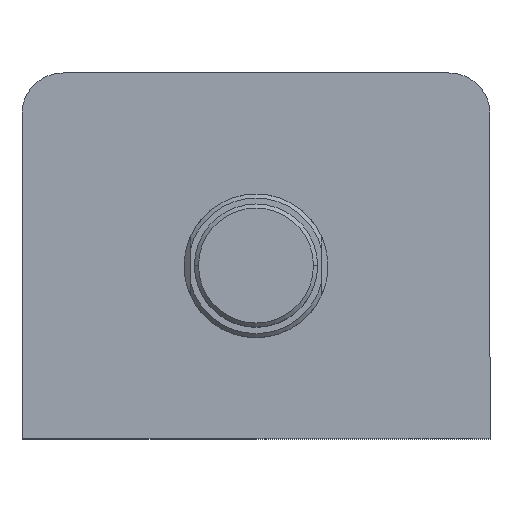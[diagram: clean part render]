
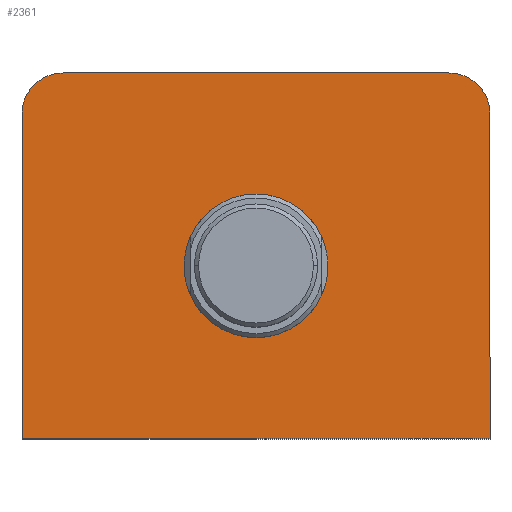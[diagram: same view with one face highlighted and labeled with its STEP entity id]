
A CAD part, top view. The second image highlights one B-rep face of the part: STEP entity #2361.
In plain terms, the highlighted planar face has unit normal (0, 0, 1).
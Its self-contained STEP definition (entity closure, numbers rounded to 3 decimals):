
#74 = CIRCLE ( 'NONE', #2833, 17.5 ) ;
#77 = CIRCLE ( 'NONE', #2831, 17.5 ) ;
#91 = LINE ( 'NONE', #2270, #94 ) ;
#94 = VECTOR ( 'NONE', #2272, 1000. ) ;
#128 = LINE ( 'NONE', #249, #131 ) ;
#131 = VECTOR ( 'NONE', #250, 1000. ) ;
#144 = CIRCLE ( 'NONE', #2812, 10. ) ;
#249 = CARTESIAN_POINT ( 'NONE',  ( -57., 44.5, 92. ) ) ;
#250 = DIRECTION ( 'NONE',  ( -1., 0., 0. ) ) ;
#281 = CARTESIAN_POINT ( 'NONE',  ( 47., 34.5, 92. ) ) ;
#282 = DIRECTION ( 'NONE',  ( 0., 0., 1. ) ) ;
#283 = DIRECTION ( 'NONE',  ( 1., 0., 0. ) ) ;
#309 = CARTESIAN_POINT ( 'NONE',  ( -47., 34.5, 92. ) ) ;
#310 = DIRECTION ( 'NONE',  ( 0., 0., 1. ) ) ;
#311 = DIRECTION ( 'NONE',  ( 1., 0., 0. ) ) ;
#317 = CARTESIAN_POINT ( 'NONE',  ( -57., 44.5, 92. ) ) ;
#433 = CARTESIAN_POINT ( 'NONE',  ( -57., 34.5, 92. ) ) ;
#437 = CARTESIAN_POINT ( 'NONE',  ( -57., -44.5, 92. ) ) ;
#548 = CARTESIAN_POINT ( 'NONE',  ( 17.5, -2.5, 92. ) ) ;
#552 = CARTESIAN_POINT ( 'NONE',  ( -17.5, -2.5, 92. ) ) ;
#560 = CARTESIAN_POINT ( 'NONE',  ( 57., 34.5, 92. ) ) ;
#731 = CARTESIAN_POINT ( 'NONE',  ( 57., -44.5, 92. ) ) ;
#809 = FACE_BOUND ( 'NONE', #2573, .T. ) ;
#823 = FACE_OUTER_BOUND ( 'NONE', #2578, .T. ) ;
#1325 = VERTEX_POINT ( 'NONE', #2279 ) ;
#1328 = VERTEX_POINT ( 'NONE', #3230 ) ;
#1337 = VERTEX_POINT ( 'NONE', #433 ) ;
#1341 = VERTEX_POINT ( 'NONE', #437 ) ;
#1411 = VERTEX_POINT ( 'NONE', #731 ) ;
#1415 = ORIENTED_EDGE ( 'NONE', *, *, #3066, .F. ) ;
#1416 = ORIENTED_EDGE ( 'NONE', *, *, #3064, .F. ) ;
#1417 = ORIENTED_EDGE ( 'NONE', *, *, #3094, .T. ) ;
#1418 = ORIENTED_EDGE ( 'NONE', *, *, #3117, .T. ) ;
#1419 = ORIENTED_EDGE ( 'NONE', *, *, #3124, .T. ) ;
#1420 = ORIENTED_EDGE ( 'NONE', *, *, #3133, .T. ) ;
#1421 = ORIENTED_EDGE ( 'NONE', *, *, #3074, .T. ) ;
#1422 = ORIENTED_EDGE ( 'NONE', *, *, #3107, .T. ) ;
#1851 = PLANE ( 'NONE',  #2939 ) ;
#1853 = CARTESIAN_POINT ( 'NONE',  ( 0., 0., 92. ) ) ;
#1858 = DIRECTION ( 'NONE',  ( 0., 0., 1. ) ) ;
#1859 = DIRECTION ( 'NONE',  ( 1., 0., 0. ) ) ;
#1912 = VERTEX_POINT ( 'NONE', #548 ) ;
#1917 = VERTEX_POINT ( 'NONE', #552 ) ;
#1926 = VERTEX_POINT ( 'NONE', #560 ) ;
#2248 = CARTESIAN_POINT ( 'NONE',  ( 0., -2.5, 92. ) ) ;
#2249 = DIRECTION ( 'NONE',  ( 0., 0., 1. ) ) ;
#2250 = DIRECTION ( 'NONE',  ( 1., 0., 0. ) ) ;
#2252 = CARTESIAN_POINT ( 'NONE',  ( 0., -2.5, 92. ) ) ;
#2253 = DIRECTION ( 'NONE',  ( 0., 0., 1. ) ) ;
#2254 = DIRECTION ( 'NONE',  ( 1., 0., 0. ) ) ;
#2270 = CARTESIAN_POINT ( 'NONE',  ( 57., 44.5, 92. ) ) ;
#2272 = DIRECTION ( 'NONE',  ( 0., 1., 0. ) ) ;
#2279 = CARTESIAN_POINT ( 'NONE',  ( 47., 44.5, 92. ) ) ;
#2361 = ADVANCED_FACE ( 'NONE', ( #809, #823 ), #1851, .T. ) ;
#2573 = EDGE_LOOP ( 'NONE', ( #1415, #1416 ) ) ;
#2578 = EDGE_LOOP ( 'NONE', ( #1417, #1418, #1419, #1420, #1421, #1422 ) ) ;
#2589 = DIRECTION ( 'NONE',  ( 0., -1., 0. ) ) ;
#2607 = CARTESIAN_POINT ( 'NONE',  ( -57., -44.5, 92. ) ) ;
#2608 = DIRECTION ( 'NONE',  ( 1., 0., 0. ) ) ;
#2803 = AXIS2_PLACEMENT_3D ( 'NONE', #309, #310, #311 ) ;
#2812 = AXIS2_PLACEMENT_3D ( 'NONE', #281, #282, #283 ) ;
#2831 = AXIS2_PLACEMENT_3D ( 'NONE', #2252, #2253, #2254 ) ;
#2833 = AXIS2_PLACEMENT_3D ( 'NONE', #2248, #2249, #2250 ) ;
#2939 = AXIS2_PLACEMENT_3D ( 'NONE', #1853, #1858, #1859 ) ;
#3064 = EDGE_CURVE ( 'NONE', #1917, #1912, #74, .T. ) ;
#3066 = EDGE_CURVE ( 'NONE', #1912, #1917, #77, .T. ) ;
#3074 = EDGE_CURVE ( 'NONE', #1411, #1926, #91, .T. ) ;
#3094 = EDGE_CURVE ( 'NONE', #1325, #1328, #128, .T. ) ;
#3107 = EDGE_CURVE ( 'NONE', #1926, #1325, #144, .T. ) ;
#3117 = EDGE_CURVE ( 'NONE', #1328, #1337, #3240, .T. ) ;
#3124 = EDGE_CURVE ( 'NONE', #1337, #1341, #3245, .T. ) ;
#3133 = EDGE_CURVE ( 'NONE', #1341, #1411, #3267, .T. ) ;
#3230 = CARTESIAN_POINT ( 'NONE',  ( -47., 44.5, 92. ) ) ;
#3240 = CIRCLE ( 'NONE', #2803, 10. ) ;
#3245 = LINE ( 'NONE', #317, #3254 ) ;
#3254 = VECTOR ( 'NONE', #2589, 1000. ) ;
#3267 = LINE ( 'NONE', #2607, #3270 ) ;
#3270 = VECTOR ( 'NONE', #2608, 1000. ) ;
